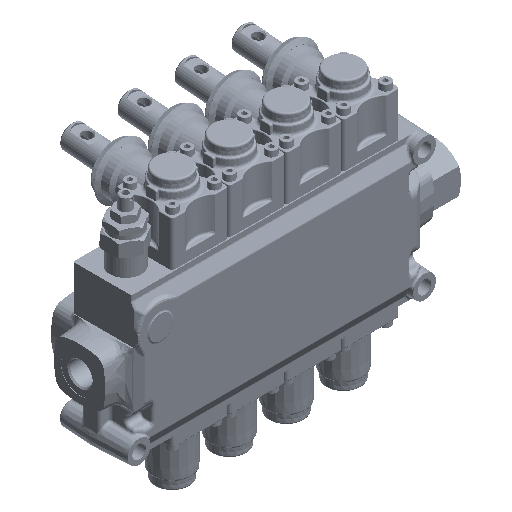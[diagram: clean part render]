
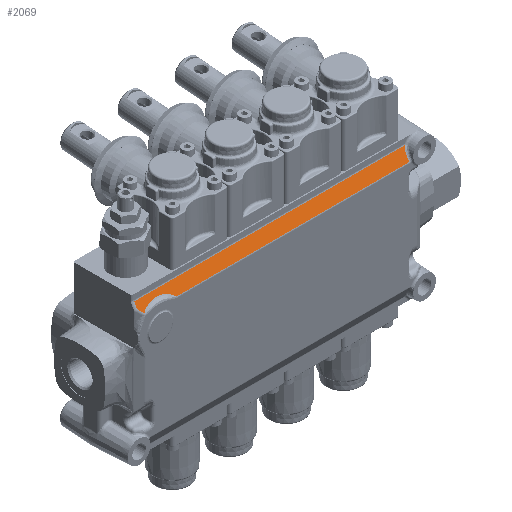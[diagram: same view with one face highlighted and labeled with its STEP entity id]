
A CAD part, isometric view. The second image highlights one B-rep face of the part: STEP entity #2069.
In plain terms, the highlighted planar face has unit normal (0, -0.866, 0.5) as drawn and (0.5, -0.866, 0) by its records, which use the part's own axes.
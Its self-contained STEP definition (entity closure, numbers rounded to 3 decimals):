
#1255 = DIRECTION ( 'NONE',  ( 0., 0., -1. ) ) ;
#2069 = ADVANCED_FACE ( 'NONE', ( #41565 ), #61871, .T. ) ;
#4821 = B_SPLINE_CURVE_WITH_KNOTS ( 'NONE', 3,
 ( #28693, #80521, #42469, #29538, #23069, #49397, #42903, #10044 ),
 .UNSPECIFIED., .F., .F.,
 ( 4, 2, 2, 4 ),
 ( 0., 0.001, 0.002, 0.004 ),
 .UNSPECIFIED. ) ;
#7588 = ORIENTED_EDGE ( 'NONE', *, *, #38638, .T. ) ;
#8483 = CARTESIAN_POINT ( 'NONE',  ( 36.348, -23.799, -134.245 ) ) ;
#9103 = ORIENTED_EDGE ( 'NONE', *, *, #24708, .T. ) ;
#9135 = CARTESIAN_POINT ( 'NONE',  ( 36., -24., -194.704 ) ) ;
#9938 = CARTESIAN_POINT ( 'NONE',  ( 41.8, -20.651, 32.766 ) ) ;
#10044 = CARTESIAN_POINT ( 'NONE',  ( 39., -22.268, 38.982 ) ) ;
#11868 = CARTESIAN_POINT ( 'NONE',  ( 40., -21.691, 45. ) ) ;
#14343 = DIRECTION ( 'NONE',  ( 0.866, 0.5, 0. ) ) ;
#15133 = ORIENTED_EDGE ( 'NONE', *, *, #67106, .T. ) ;
#17300 = CARTESIAN_POINT ( 'NONE',  ( 36.348, -23.799, 20.868 ) ) ;
#19561 = VERTEX_POINT ( 'NONE', #60068 ) ;
#21508 = CARTESIAN_POINT ( 'NONE',  ( 41.255, -20.966, -133.804 ) ) ;
#22181 = DIRECTION ( 'NONE',  ( 0.5, -0.866, 0. ) ) ;
#23069 = CARTESIAN_POINT ( 'NONE',  ( 37.914, -22.895, 40.832 ) ) ;
#23899 = VERTEX_POINT ( 'NONE', #25762 ) ;
#24708 = EDGE_CURVE ( 'NONE', #29501, #52514, #33996, .T. ) ;
#25363 = LINE ( 'NONE', #44763, #73843 ) ;
#25762 = CARTESIAN_POINT ( 'NONE',  ( 43.446, -19.701, -135.036 ) ) ;
#26656 = CARTESIAN_POINT ( 'NONE',  ( 43.446, -19.701, 45. ) ) ;
#27655 = ORIENTED_EDGE ( 'NONE', *, *, #63712, .T. ) ;
#28002 = CARTESIAN_POINT ( 'NONE',  ( 38.757, -22.408, -133.525 ) ) ;
#28693 = CARTESIAN_POINT ( 'NONE',  ( 36.826, -23.523, 41.826 ) ) ;
#29501 = VERTEX_POINT ( 'NONE', #11868 ) ;
#29538 = CARTESIAN_POINT ( 'NONE',  ( 37.724, -23.005, 41.064 ) ) ;
#31442 = ORIENTED_EDGE ( 'NONE', *, *, #53701, .T. ) ;
#33528 = LINE ( 'NONE', #26656, #76392 ) ;
#33996 = LINE ( 'NONE', #72901, #35782 ) ;
#34859 = DIRECTION ( 'NONE',  ( -0.655, -0.378, -0.655 ) ) ;
#35782 = VECTOR ( 'NONE', #34859, 1000. ) ;
#35828 = CARTESIAN_POINT ( 'NONE',  ( 36.348, -23.799, -134.245 ) ) ;
#38638 = EDGE_CURVE ( 'NONE', #55722, #47194, #42066, .T. ) ;
#39541 = CARTESIAN_POINT ( 'NONE',  ( 39., -22.268, 38.982 ) ) ;
#41565 = FACE_OUTER_BOUND ( 'NONE', #65663, .T. ) ;
#42066 =( BOUNDED_CURVE ( )  B_SPLINE_CURVE ( 3, ( #50132, #9938, #76514, #17300 ),
 .UNSPECIFIED., .F., .T. ) 
 B_SPLINE_CURVE_WITH_KNOTS ( ( 4, 4 ),
 ( 2.718, 3.856 ),
 .UNSPECIFIED. ) 
 CURVE ( )  GEOMETRIC_REPRESENTATION_ITEM ( )  RATIONAL_B_SPLINE_CURVE ( ( 1., 0.895, 0.895, 1. ) ) 
 REPRESENTATION_ITEM ( '' )  );
#42469 = CARTESIAN_POINT ( 'NONE',  ( 37.304, -23.247, 41.49 ) ) ;
#42903 = CARTESIAN_POINT ( 'NONE',  ( 38.743, -22.416, 39.553 ) ) ;
#44193 = VECTOR ( 'NONE', #1255, 1000. ) ;
#44763 = CARTESIAN_POINT ( 'NONE',  ( 41., -21.113, 45. ) ) ;
#46703 = LINE ( 'NONE', #81225, #44193 ) ;
#47194 = VERTEX_POINT ( 'NONE', #63946 ) ;
#49397 = CARTESIAN_POINT ( 'NONE',  ( 38.443, -22.59, 40.097 ) ) ;
#50132 = CARTESIAN_POINT ( 'NONE',  ( 39., -22.268, 38.982 ) ) ;
#52514 = VERTEX_POINT ( 'NONE', #80263 ) ;
#53701 = EDGE_CURVE ( 'NONE', #47194, #76699, #46703, .T. ) ;
#55722 = VERTEX_POINT ( 'NONE', #39541 ) ;
#56434 = DIRECTION ( 'NONE',  ( -0.866, -0.5, 0. ) ) ;
#59167 = EDGE_CURVE ( 'NONE', #23899, #19561, #33528, .T. ) ;
#59561 = ORIENTED_EDGE ( 'NONE', *, *, #59167, .T. ) ;
#60068 = CARTESIAN_POINT ( 'NONE',  ( 43.446, -19.701, 45. ) ) ;
#60701 = DIRECTION ( 'NONE',  ( 0., 0., 1. ) ) ;
#60750 = ORIENTED_EDGE ( 'NONE', *, *, #80758, .T. ) ;
#61871 = PLANE ( 'NONE',  #82627 ) ;
#63712 = EDGE_CURVE ( 'NONE', #19561, #29501, #25363, .T. ) ;
#63946 = CARTESIAN_POINT ( 'NONE',  ( 36.348, -23.799, 20.868 ) ) ;
#65663 = EDGE_LOOP ( 'NONE', ( #31442, #60750, #59561, #27655, #9103, #15133, #7588 ) ) ;
#67106 = EDGE_CURVE ( 'NONE', #52514, #55722, #4821, .T. ) ;
#71097 =( BOUNDED_CURVE ( )  B_SPLINE_CURVE ( 3, ( #8483, #28002, #21508, #79837 ),
 .UNSPECIFIED., .F., .T. ) 
 B_SPLINE_CURVE_WITH_KNOTS ( ( 4, 4 ),
 ( 4.422, 5.225 ),
 .UNSPECIFIED. ) 
 CURVE ( )  GEOMETRIC_REPRESENTATION_ITEM ( )  RATIONAL_B_SPLINE_CURVE ( ( 1., 0.947, 0.947, 1. ) ) 
 REPRESENTATION_ITEM ( '' )  );
#72901 = CARTESIAN_POINT ( 'NONE',  ( -65.016, -82.322, -60.016 ) ) ;
#73843 = VECTOR ( 'NONE', #56434, 1000. ) ;
#76392 = VECTOR ( 'NONE', #60701, 1000. ) ;
#76514 = CARTESIAN_POINT ( 'NONE',  ( 40.813, -21.221, 26.02 ) ) ;
#76699 = VERTEX_POINT ( 'NONE', #35828 ) ;
#79837 = CARTESIAN_POINT ( 'NONE',  ( 43.446, -19.701, -135.036 ) ) ;
#80263 = CARTESIAN_POINT ( 'NONE',  ( 36.826, -23.523, 41.826 ) ) ;
#80521 = CARTESIAN_POINT ( 'NONE',  ( 37.077, -23.378, 41.683 ) ) ;
#80758 = EDGE_CURVE ( 'NONE', #76699, #23899, #71097, .T. ) ;
#81225 = CARTESIAN_POINT ( 'NONE',  ( 36.348, -23.799, -194.704 ) ) ;
#82627 = AXIS2_PLACEMENT_3D ( 'NONE', #9135, #22181, #14343 ) ;
